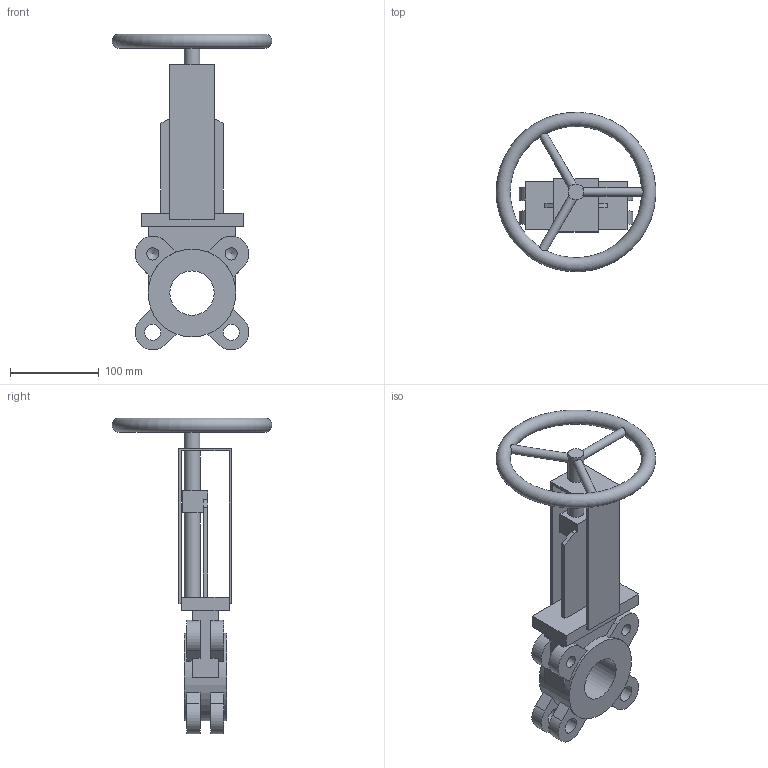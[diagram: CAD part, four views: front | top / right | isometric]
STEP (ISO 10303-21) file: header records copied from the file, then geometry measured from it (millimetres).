
FILE_DESCRIPTION(('STEP AP203'), '1');
FILE_NAME('Çàäâèæêà øèáåðíàÿ ìåæôëàíöåâàÿ K51GV DN50', '', ('UNSPECIFIED'), ('UNSPECIFIED'), 'ASCON STEP Converter 1.6', 'ASCON Math Kernel', '');
FILE_SCHEMA(('CONFIG_CONTROL_DESIGN'));
Length unit declared in the file: millimetre
Bounding box: 179.98 x 179.86 x 356.12 mm (x, y, z)
Volume: 849660.9 mm3; surface area: 178832.2 mm2
Topology: 1 solids, 1 shells, 101 faces, 276 edges, 181 vertices
Faces by surface type: plane 72, cylinder 24, cone 4, torus 1
Full cylindrical faces by diameter (mm): 10 x3, 13.835 x4, 18 x7, 50 x1, 99 x1
Entity records: 5069 total; most frequent: CARTESIAN_POINT 1700, DIRECTION 510, ORIENTED_EDGE 496, EDGE_CURVE 248, VERTEX_POINT 176, LINE 174, VECTOR 174, AXIS2_PLACEMENT_3D 168
